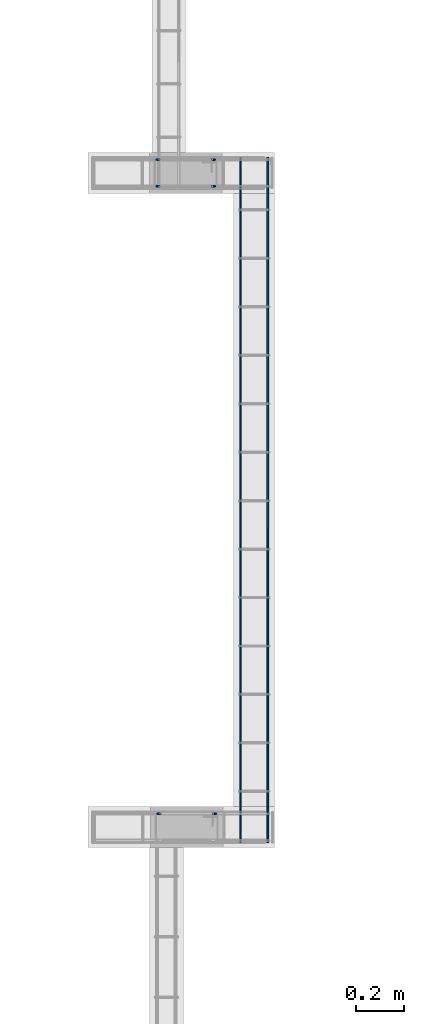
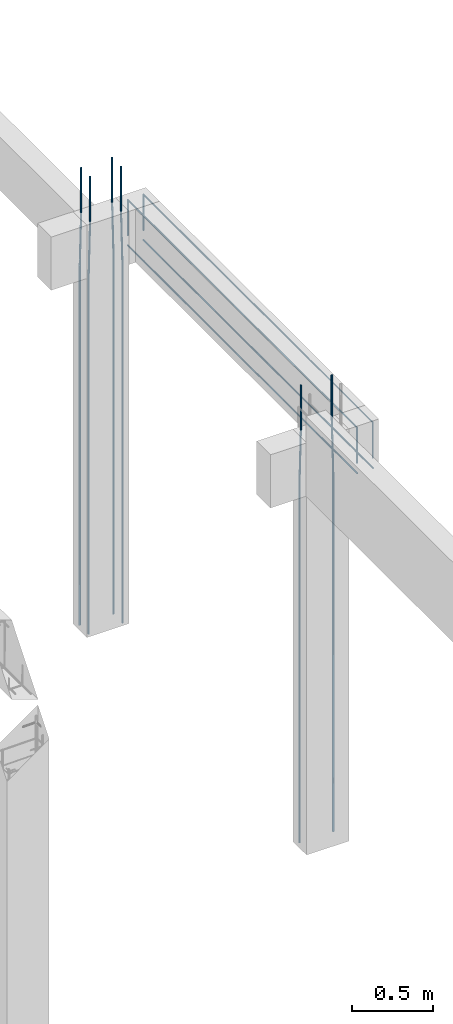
# One storey, part 127 of 236: 10 reinforcing bars.
"""IFC4 building model written with IfcOpenShell, lengths in centimetres."""

from ifc_helpers import new_model, entity, si_unit, derived_unit, frame, origin_with_axes, place, context, project, spatial, element, save


model = new_model("IFC4")

# Units and contexts
model_context = context("Model", 3, precision=1e-05, world=origin_with_axes(), identifier="Body")
ifc_project = project(units=[si_unit("LENGTHUNIT", "METRE", prefix="CENTI"), si_unit("VOLUMEUNIT", "CUBIC_METRE"), si_unit("AREAUNIT", "SQUARE_METRE"), si_unit("POWERUNIT", "WATT"), si_unit("LUMINOUSFLUXUNIT", "LUMEN"), si_unit("ELECTRICCURRENTUNIT", "AMPERE"), si_unit("PRESSUREUNIT", "PASCAL", prefix="KILO"), si_unit("MASSUNIT", "GRAM", prefix="KILO"), si_unit("PLANEANGLEUNIT", "RADIAN"), derived_unit("VOLUMETRICFLOWRATEUNIT", [(si_unit("LENGTHUNIT", "METRE"), 3), (si_unit("TIMEUNIT", "SECOND"), -1)])], contexts=[model_context])

# Site, building, storey
site_placement = place(None, frame((-4000.0, 0.0, 0.0), z_axis=(0.0, 0.0, 1.0), x_axis=(1.0, 0.0, 0.0)))
site = spatial("IfcSite", under=ifc_project, at=site_placement, Name="PADRÃO")
building_placement = place(site_placement, frame((0.0, 0.0, -14.0)))
building = spatial("IfcBuilding", under=site, at=building_placement, Name="CRECHE PRÉ-ESCOLA TIPO 2")
placement_1 = place(building_placement, origin_with_axes())
placement_2 = place(placement_1, frame((0.0, 0.0, 30.0), z_axis=(0.0, 0.0, 1.0), x_axis=(1.0, 0.0, 0.0)))
storey_placement = place(placement_2, frame((0.0, 0.0, 310.0), z_axis=(0.0, 0.0, 1.0), x_axis=(1.0, 0.0, 0.0)))
storey = spatial("IfcBuildingStorey", under=building, at=storey_placement, Name="TERREO", CompositionType="ELEMENT", Elevation=326.0)

# Reinforcing bars
reinforcing_bar_1_placement = place(storey_placement, frame((1381.34, 3464.52, 33.3573001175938), z_axis=(0.0, 0.0, 1.0), x_axis=(1.0, 0.0, 0.0)))
element("IfcReinforcingBar", 1, at=reinforcing_bar_1_placement, inside=storey, Name="P41 - Longitudinal", BarLength=0.0, CrossSectionArea=7.853981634e-05, NominalDiameter=1.0, PredefinedType="MAIN", context=model_context, shape_type="AdvancedSweptSolid", body=[
    entity("IfcSweptDiskSolid", entity("IfcCompositeCurve", [entity("IfcCompositeCurveSegment", "CONTINUOUS", True, entity("IfcPolyline", [entity("IfcCartesianPoint", [-0.5, 0.0, -343.357300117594]), entity("IfcCartesianPoint", [-0.5, 0.0, -73.3573001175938])])), entity("IfcCompositeCurveSegment", "CONTINUOUS", True, entity("IfcPolyline", [entity("IfcCartesianPoint", [-0.5, 0.0, -73.3573001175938]), entity("IfcCartesianPoint", [0.5, 0.0, -33.3573001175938])])), entity("IfcCompositeCurveSegment", "CONTINUOUS", True, entity("IfcPolyline", [entity("IfcCartesianPoint", [0.5, 0.0, -33.3573001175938]), entity("IfcCartesianPoint", [0.5, 0.0, 0.0])]))], False), 0.5),
])
for number, where, z_axis, x_axis, name in (
    (2, (1404.34, 3464.52, 33.3573001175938), (0.0, 0.0, 1.0), (1.0, 0.0, 0.0), "P41 - Longitudinal"),
    (3, (1404.34, 3475.52, 33.3573001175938), (0.0, 0.0, 1.0), (1.0, 0.0, 0.0), "P41 - Longitudinal"),
):
    element("IfcReinforcingBar", number, at=place(storey_placement, frame(where, z_axis=z_axis, x_axis=x_axis)), inside=storey, Name=name, BarLength=0.0, CrossSectionArea=7.853981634e-05, NominalDiameter=1.0, PredefinedType="MAIN", context=model_context, shape_type="AdvancedSweptSolid", body=[
        entity("IfcSweptDiskSolid", entity("IfcCompositeCurve", [entity("IfcCompositeCurveSegment", "CONTINUOUS", True, entity("IfcPolyline", [entity("IfcCartesianPoint", [0.5, 0.0, -343.357300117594]), entity("IfcCartesianPoint", [0.5, 0.0, -73.3573001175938])])), entity("IfcCompositeCurveSegment", "CONTINUOUS", True, entity("IfcPolyline", [entity("IfcCartesianPoint", [0.5, 0.0, -73.3573001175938]), entity("IfcCartesianPoint", [-0.5, 0.0, -33.3573001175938])])), entity("IfcCompositeCurveSegment", "CONTINUOUS", True, entity("IfcPolyline", [entity("IfcCartesianPoint", [-0.5, 0.0, -33.3573001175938]), entity("IfcCartesianPoint", [-0.5, 0.0, 0.0])]))], False), 0.5),
    ])
for number, where, z_axis, x_axis, name in (
    (4, (1381.34, 3475.52, 33.3573001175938), (0.0, 0.0, 1.0), (1.0, 0.0, 0.0), "P41 - Longitudinal"),
    (5, (1381.75, 3205.52, 33.3573001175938), (0.0, 0.0, 1.0), (1.0, 0.0, 0.0), "P51 - Longitudinal"),
):
    element("IfcReinforcingBar", number, at=place(storey_placement, frame(where, z_axis=z_axis, x_axis=x_axis)), inside=storey, Name=name, BarLength=0.0, CrossSectionArea=7.853981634e-05, NominalDiameter=1.0, PredefinedType="MAIN", context=model_context, shape_type="AdvancedSweptSolid", body=[
        entity("IfcSweptDiskSolid", entity("IfcCompositeCurve", [entity("IfcCompositeCurveSegment", "CONTINUOUS", True, entity("IfcPolyline", [entity("IfcCartesianPoint", [-0.5, 0.0, -343.357300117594]), entity("IfcCartesianPoint", [-0.5, 0.0, -73.3573001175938])])), entity("IfcCompositeCurveSegment", "CONTINUOUS", True, entity("IfcPolyline", [entity("IfcCartesianPoint", [-0.5, 0.0, -73.3573001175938]), entity("IfcCartesianPoint", [0.5, 0.0, -33.3573001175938])])), entity("IfcCompositeCurveSegment", "CONTINUOUS", True, entity("IfcPolyline", [entity("IfcCartesianPoint", [0.5, 0.0, -33.3573001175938]), entity("IfcCartesianPoint", [0.5, 0.0, 0.0])]))], False), 0.5),
    ])
reinforcing_bar_2_placement = place(storey_placement, frame((1404.75, 3205.52, 33.3573001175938), z_axis=(0.0, 0.0, 1.0), x_axis=(1.0, 0.0, 0.0)))
element("IfcReinforcingBar", 6, at=reinforcing_bar_2_placement, inside=storey, Name="P51 - Longitudinal", BarLength=0.0, CrossSectionArea=7.853981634e-05, NominalDiameter=1.0, PredefinedType="MAIN", context=model_context, shape_type="AdvancedSweptSolid", body=[
    entity("IfcSweptDiskSolid", entity("IfcCompositeCurve", [entity("IfcCompositeCurveSegment", "CONTINUOUS", True, entity("IfcPolyline", [entity("IfcCartesianPoint", [0.5, 0.0, -343.357300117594]), entity("IfcCartesianPoint", [0.5, 0.0, -73.3573001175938])])), entity("IfcCompositeCurveSegment", "CONTINUOUS", True, entity("IfcPolyline", [entity("IfcCartesianPoint", [0.5, 0.0, -73.3573001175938]), entity("IfcCartesianPoint", [-0.5, 0.0, -33.3573001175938])])), entity("IfcCompositeCurveSegment", "CONTINUOUS", True, entity("IfcPolyline", [entity("IfcCartesianPoint", [-0.5, 0.0, -33.3573001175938]), entity("IfcCartesianPoint", [-0.5, 0.0, 0.0])]))], False), 0.5),
])
for number, where, z_axis, x_axis, name in (
    (7, (1426.64, 3335.02500121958, -36.7), (0.0, 0.0, 1.0), (1.0, 0.0, 0.0), "V285 - Longitudinal inferior"),
    (8, (1415.44, 3335.02500121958, -36.7), (0.0, 0.0, 1.0), (1.0, 0.0, 0.0), "V285 - Longitudinal inferior"),
):
    element("IfcReinforcingBar", number, at=place(storey_placement, frame(where, z_axis=z_axis, x_axis=x_axis)), inside=storey, Name=name, BarLength=0.0, CrossSectionArea=5.0265482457e-05, NominalDiameter=0.8, PredefinedType="MAIN", context=model_context, shape_type="AdvancedSweptSolid", body=[
        entity("IfcSweptDiskSolid", entity("IfcCompositeCurve", [entity("IfcCompositeCurveSegment", "CONTINUOUS", True, entity("IfcPolyline", [entity("IfcCartesianPoint", [0.0, -141.505001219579, -0.4]), entity("IfcCartesianPoint", [0.0, 141.505001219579, -0.4])]))], False), 0.4),
    ])
for number, where, z_axis, x_axis, name in (
    (9, (1426.64, 3335.02500121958, -2.49624973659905), (0.0, 0.0, 1.0), (1.0, 0.0, 0.0), "V285 - Longitudinal superior"),
    (10, (1415.44, 3335.02500121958, -2.49624973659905), (0.0, 0.0, 1.0), (1.0, 0.0, 0.0), "V285 - Longitudinal superior"),
):
    element("IfcReinforcingBar", number, at=place(storey_placement, frame(where, z_axis=z_axis, x_axis=x_axis)), inside=storey, Name=name, BarLength=0.0, CrossSectionArea=5.0265482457e-05, NominalDiameter=0.8, PredefinedType="MAIN", context=model_context, shape_type="AdvancedSweptSolid", body=[
        entity("IfcSweptDiskSolid", entity("IfcCompositeCurve", [entity("IfcCompositeCurveSegment", "CONTINUOUS", True, entity("IfcPolyline", [entity("IfcCartesianPoint", [0.0, -141.105001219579, -27.089590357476]), entity("IfcCartesianPoint", [0.0, -141.105001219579, -0.403750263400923])])), entity("IfcCompositeCurveSegment", "CONTINUOUS", True, entity("IfcPolyline", [entity("IfcCartesianPoint", [0.0, -141.105001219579, -0.403750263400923]), entity("IfcCartesianPoint", [0.0, 141.105001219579, -0.403750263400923])])), entity("IfcCompositeCurveSegment", "CONTINUOUS", True, entity("IfcPolyline", [entity("IfcCartesianPoint", [0.0, 141.105001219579, -0.403750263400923]), entity("IfcCartesianPoint", [0.0, 141.105001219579, -27.089590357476])]))], False), 0.4),
    ])

save(model, "model.ifc")
